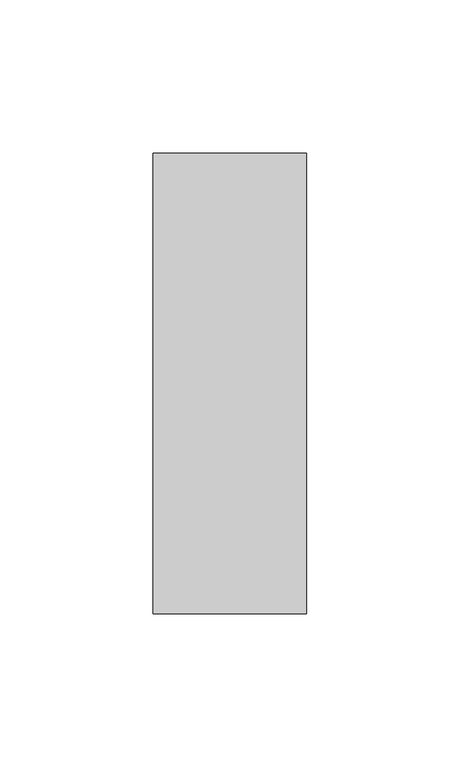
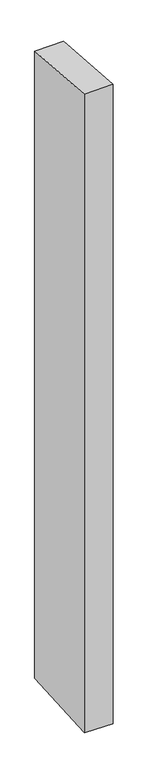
"""IFC4 building model written with IfcOpenShell, lengths in millimetres: member geometry, Прямоугольный импост : 50 x 150 мм."""

from ifc_helpers import new_model, si_unit, origin, place, context, project, spatial, faceted_brep, source, transform, mapped, element, save


def member_5a50530d(model_context):
    return source(origin(), model_context, "Body", "Brep", [
        faceted_brep([(-25.0, 75.0, -6.1026862), (25.0, 75.0, -5.3106672), (25.0, 75.0, -1162.2971102), (-25.0, 75.0, -1161.2972026), (-25.0, -75.0, 5.3106672), (-25.0, -75.0, -1170.4881026), (25.0, -75.0, 6.1026862), (25.0, -75.0, -1171.4880102)], [[[0, 1, 2, 3]], [[4, 0, 3, 5]], [[6, 4, 5, 7]], [[1, 6, 7, 2]], [[1, 0, 4, 6]], [[2, 7, 5, 3]]]),
    ])


if __name__ == "__main__":
    model = new_model("IFC4")
    model_context = context("Model", 3, world=origin())
    ifc_project = project(units=[si_unit("LENGTHUNIT", "METRE", prefix="MILLI")], contexts=[model_context])
    site = spatial("IfcSite", under=ifc_project)
    building = spatial("IfcBuilding", under=site)
    placement = place(None, origin())
    member_shape = member_5a50530d(model_context)
    element("IfcMember", 1, ObjectType="Прямоугольный импост : 50 x 150 мм", at=placement, inside=building, context=model_context, shape_type="MappedRepresentation", body=[
        mapped(member_shape, transform((0.0, 0.0, 0.0), x_axis=(1.0, 0.0, 0.0), y_axis=(0.0, 1.0, 0.0), z_axis=(0.0, 0.0, 1.0))),
    ])
    save(model, "model.ifc")
